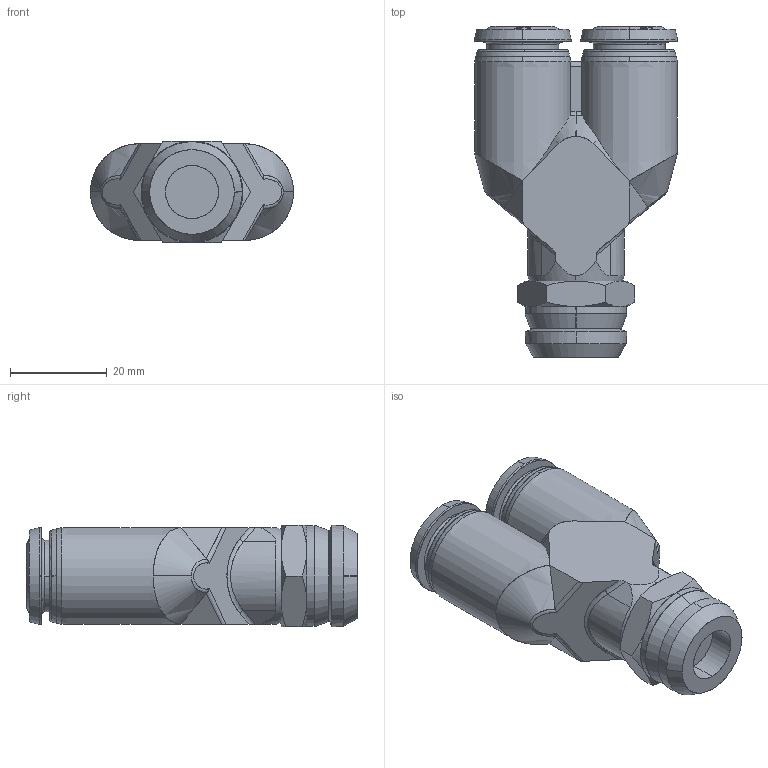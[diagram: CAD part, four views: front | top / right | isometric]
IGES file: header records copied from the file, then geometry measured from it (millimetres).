
Start section: SolidWorks IGES file using analytic representation for surfaces
Global section: file name: K:\Disegni Esecutivi\Serie 55000\ASSIEMI_55000\55320\ASSIEMI_.IGES_55320\5532000013A.IGS; native system: SolidWorks 2007; preprocessor: SolidWorks 2007; author: cad02; date: 071128.163050; units: millimetre
Bounding box: 42 x 68.5 x 21.03 mm (x, y, z)
Surface area: 9636.2 mm2 (no closed solid volume)
Topology: 0 solids, 0 shells, 279 faces, 3470 edges, 3470 vertices
Faces by surface type: bspline 179, revolution 100
